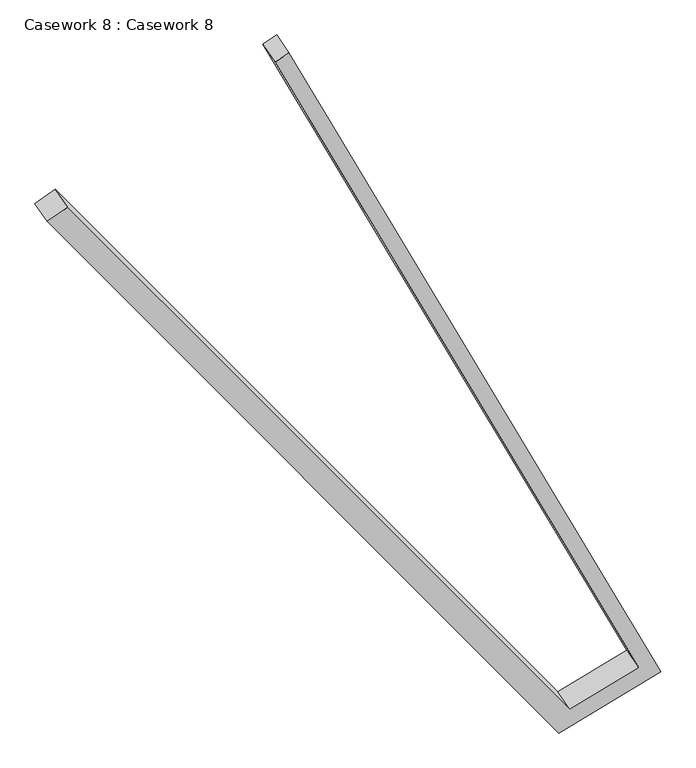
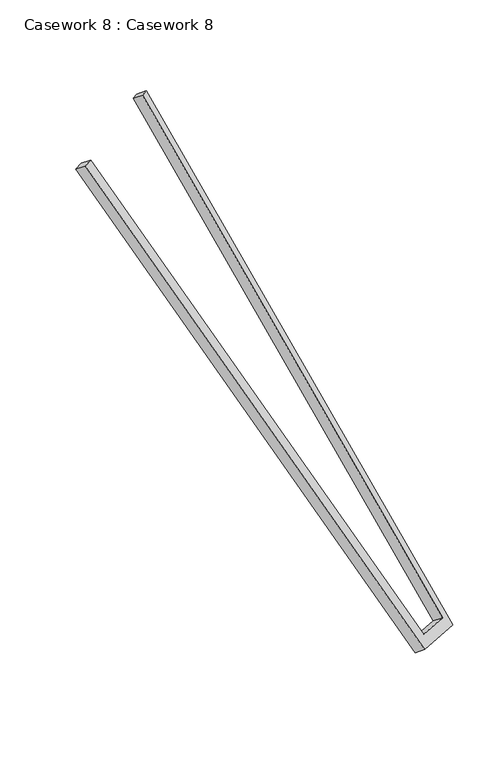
"""IFC4 building model written with IfcOpenShell, lengths in millimetres: furniture geometry, Casework 8 : Casework 8."""

from ifc_helpers import new_model, si_unit, frame, origin, place, context, project, spatial, polyline, outline, extrude, source, transform, mapped, element, save


def casework_8_casework_8_89a0940e(model_context):
    return source(origin(), model_context, "Body", "SweptSolid", [
        extrude(outline(polyline([(19.5651902, 0.0), (-378.1172681, 4956.3573602), (-313.7733645, 4963.7712016), (92.6704817, -101.7802379), (-369.8231598, -101.780238), (-1444.5638678, 4822.4062822), (-1348.5132246, 4833.4734416), (-293.5713276, 1e-07), (19.5651902, 0.0)])), frame((-1317.4032567, 9937.9701162, 5127.3983672), z_axis=(0.47499806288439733, -0.6881314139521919, 0.5484997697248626), x_axis=(0.8532322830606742, 0.5126736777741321, -0.09570982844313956)), (0.0, 0.0, 1.0), 100.0),
    ])


if __name__ == "__main__":
    model = new_model("IFC4")
    model_context = context("Model", 3, world=origin())
    ifc_project = project(units=[si_unit("LENGTHUNIT", "METRE", prefix="MILLI")], contexts=[model_context])
    site = spatial("IfcSite", under=ifc_project)
    building = spatial("IfcBuilding", under=site)
    placement = place(None, origin())
    casework_8_casework_8_shape = casework_8_casework_8_89a0940e(model_context)
    element("IfcFurniture", 1, ObjectType="Casework 8 : Casework 8", at=placement, inside=building, context=model_context, shape_type="MappedRepresentation", body=[
        mapped(casework_8_casework_8_shape, transform((0.0, 0.0, 0.0), x_axis=(1.0, 0.0, 0.0), y_axis=(0.0, 1.0, 0.0), z_axis=(0.0, 0.0, 1.0))),
    ])
    save(model, "model.ifc")
